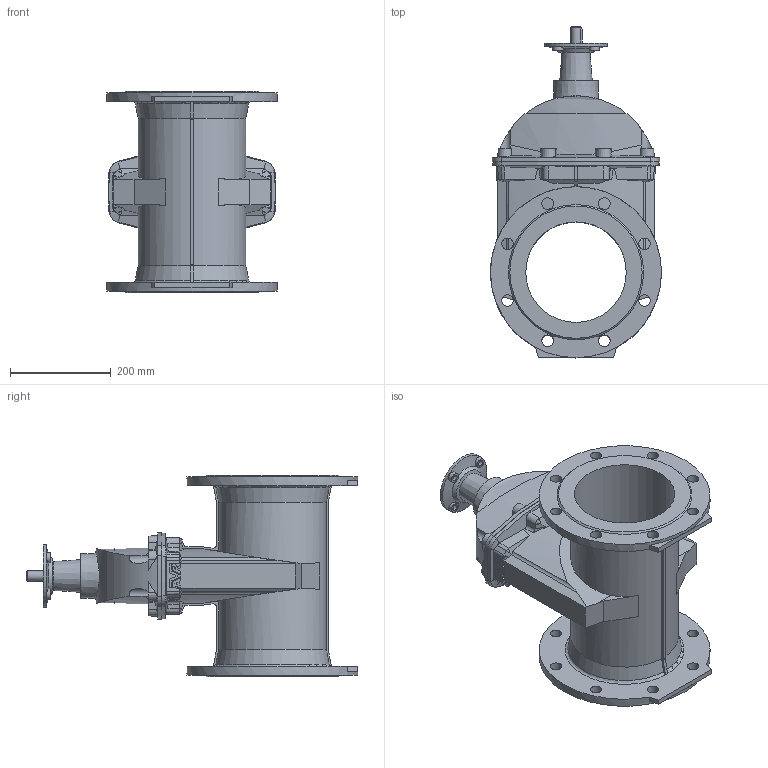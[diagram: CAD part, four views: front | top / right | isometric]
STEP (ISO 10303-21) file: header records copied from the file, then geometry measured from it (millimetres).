
FILE_DESCRIPTION (( 'STEP AP203' ), '1' );
FILE_NAME ('O_15_72_DN200_X0XXX099_AA0.step', '2017-03-10T08:56:06', ( 'Windows User' ), ( 'AVK' ), 'SwSTEP 2.0', 'SolidWorks 2012', '' );
FILE_SCHEMA (( 'CONFIG_CONTROL_DESIGN' ));
Length unit declared in the file: inch
Products named in the file (1): O_15_72_DN200_X0XXX099_AA0
Bounding box: 340 x 660 x 400 mm (x, y, z)
Volume: 12922750.6 mm3; surface area: 1076414.3 mm2
Topology: 1 solids, 1 shells, 366 faces, 1035 edges, 672 vertices
Faces by surface type: plane 169, cylinder 95, cone 86, sphere 10, bspline 4, torus 2
Full cylindrical faces by diameter (mm): 12 x4, 20 x5, 23 x16, 125 x1, 200 x1, 340 x2
Entity records: 13608 total; most frequent: CARTESIAN_POINT 4710, ORIENTED_EDGE 1912, DIRECTION 1680, EDGE_CURVE 956, VERTEX_POINT 644, AXIS2_PLACEMENT_3D 598, VECTOR 484, LINE 484
